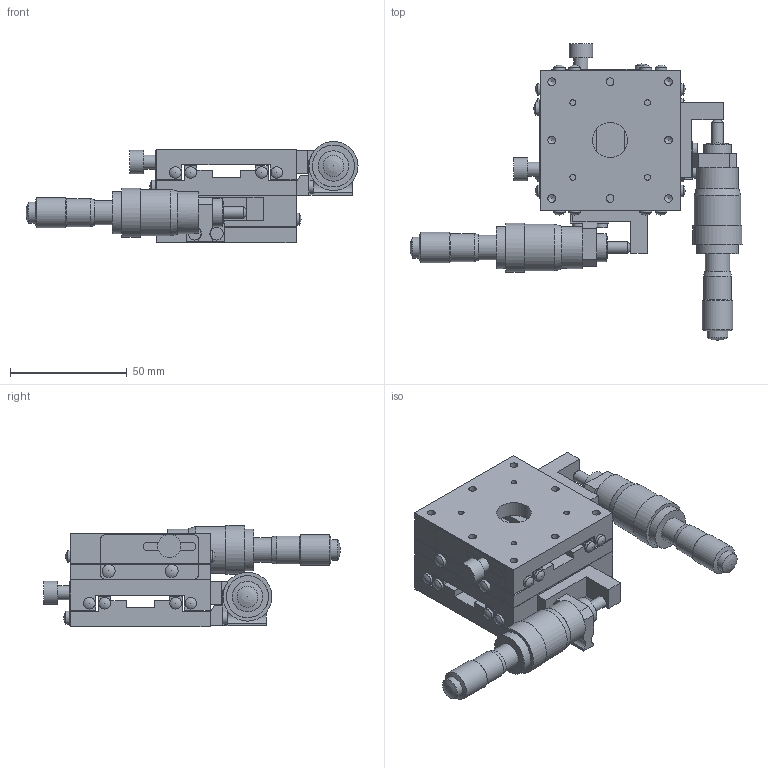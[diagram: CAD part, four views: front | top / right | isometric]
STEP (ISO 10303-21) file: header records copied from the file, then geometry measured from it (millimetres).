
FILE_DESCRIPTION( ( 'STEP AP214' ), '1' );
FILE_NAME( 'C:/Project/3D_B21-60DR-配布-070508.stp', '2007-05-08T10:42:47', ( ' ' ), ( ' ' ), 'XStep 1.0', ' ', ' ' );
FILE_SCHEMA( ( 'automotive_design' ) );
Length unit declared in the file: millimetre
Products named in the file (6): 1; 2; 3; 4; 5; 6
Bounding box: 142.25 x 127.05 x 43.3 mm (x, y, z)
Volume: 165206 mm3; surface area: 67932.8 mm2
Topology: 6 solids, 6 shells, 367 faces, 956 edges, 635 vertices
Faces by surface type: plane 184, cylinder 139, sphere 24, cone 20
Full cylindrical faces by diameter (mm): 2.5 x16, 3 x2, 3.3 x32, 4.5 x8, 5 x21, 5.5 x4, 5.6 x4, 6 x2, 8 x8, 9 x2, 9.5 x2, 10 x2, 10.5 x4, 12 x4, 13 x2, 15 x2, 18 x4, 20 x2, 21 x2
Entity records: 12525 total; most frequent: DIRECTION 1674, CARTESIAN_POINT 1581, ORIENTED_EDGE 1338, EDGE_CURVE 669, AXIS2_PLACEMENT_3D 636, EDGE_LOOP 620, VERTEX_POINT 527, FACE_OUTER_BOUND 490
